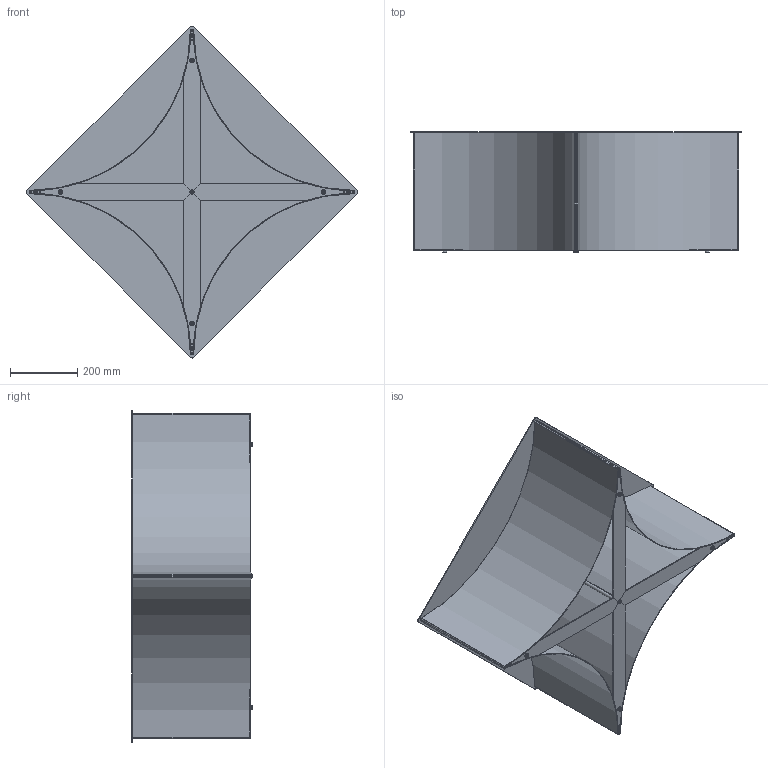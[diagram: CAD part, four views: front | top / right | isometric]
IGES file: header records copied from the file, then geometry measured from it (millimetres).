
Start section: SolidWorks IGES file using analytic representation for surfaces
Global section: file name: \\utenti\Dati Utenti\Tecnico\DC\2D - 3D per sito\3D\DeCastelli-3D-Alchemy 70.igs; native system: SolidWorks 2022; preprocessor: SolidWorks 2022; author: Simonep; date: 240729.120100; units: millimetre
Bounding box: 984.98 x 358.05 x 984.98 mm (x, y, z)
Surface area: 3289139 mm2 (no closed solid volume)
Topology: 0 solids, 0 shells, 167 faces, 1384 edges, 1374 vertices
Faces by surface type: bspline 114, revolution 53
